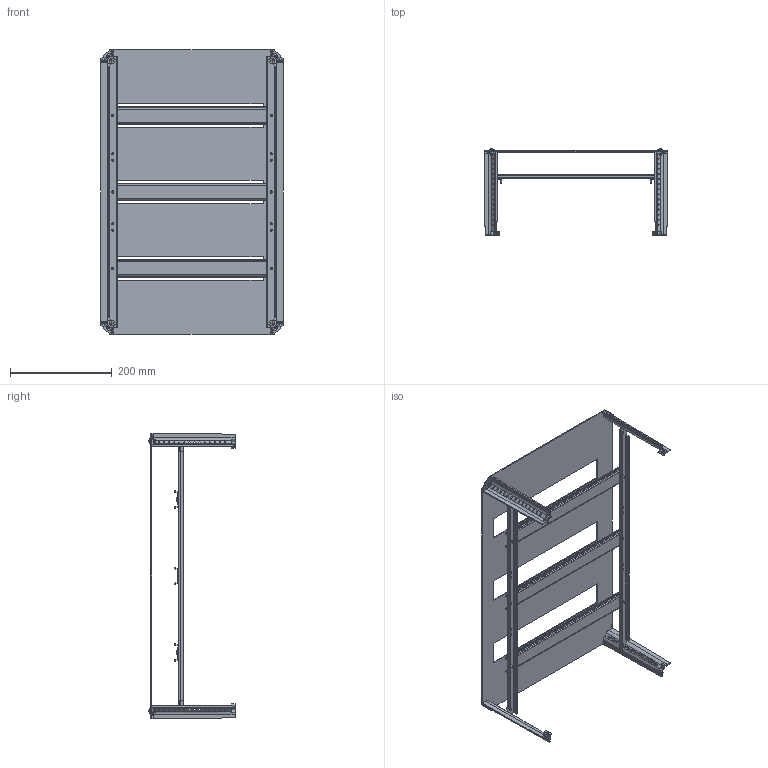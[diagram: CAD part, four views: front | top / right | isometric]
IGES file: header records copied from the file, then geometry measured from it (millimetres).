
Start section: SolidWorks IGES file using analytic representation for surfaces
Global section: file name: \\Fiboxads1\cad2\3DRAW\EKI\3Dcam\NewCabinet\Solidpart\DRS ARCA 604021.IGS; native system: SolidWorks 2013; preprocessor: SolidWorks 2013; author: KennethW; date: 131125.150101; units: millimetre
Bounding box: 360.84 x 168.94 x 560.84 mm (x, y, z)
Surface area: 557129.1 mm2 (no closed solid volume)
Topology: 0 solids, 0 shells, 2167 faces, 24028 edges, 24028 vertices
Faces by surface type: bspline 1658, revolution 509
